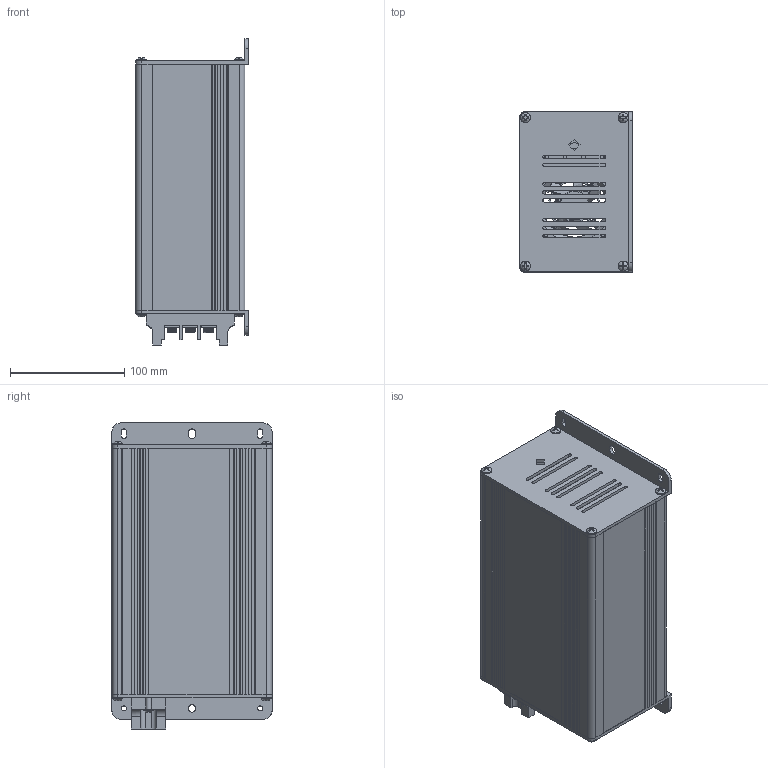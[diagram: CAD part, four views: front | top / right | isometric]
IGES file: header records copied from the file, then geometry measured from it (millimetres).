
Global section: file name: DH215; native system: Autodesk Inventor 2021; preprocessor: unknown; author: eunsol jang; date: 20220616.144350; units: inch
Bounding box: 98.5 x 140 x 267.5 mm (x, y, z)
Volume: 465617.5 mm3; surface area: 317214.3 mm2
Topology: 1 solids, 1 shells, 1120 faces, 3177 edges, 2075 vertices
Faces by surface type: bspline 1120
